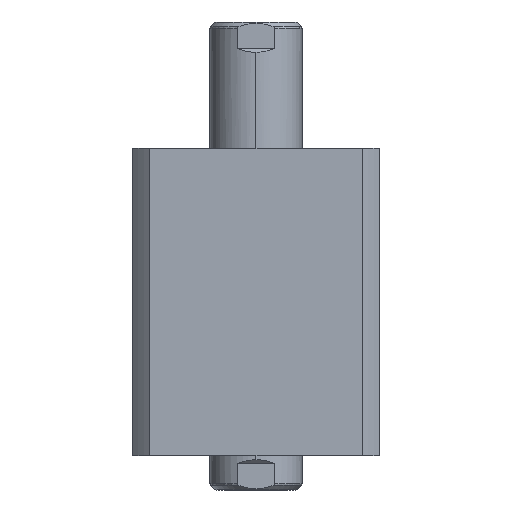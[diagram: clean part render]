
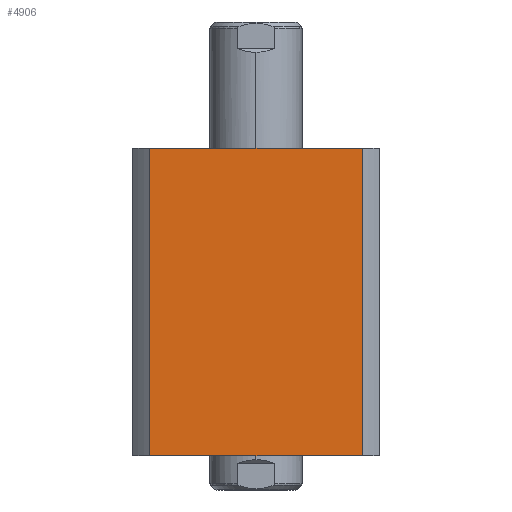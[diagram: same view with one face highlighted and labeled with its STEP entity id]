
A CAD part, left-side view. The second image highlights one B-rep face of the part: STEP entity #4906.
In plain terms, the highlighted planar face has unit normal (-1, 0, 0).
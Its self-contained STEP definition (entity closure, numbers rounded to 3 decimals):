
#199 = CARTESIAN_POINT ( 'NONE',  ( -47., -40.435, 0. ) ) ;
#310 = VERTEX_POINT ( 'NONE', #7878 ) ;
#625 = AXIS2_PLACEMENT_3D ( 'NONE', #15335, #13899, #9656 ) ;
#1431 = EDGE_CURVE ( 'NONE', #310, #5982, #11146, .T. ) ;
#2441 = DIRECTION ( 'NONE',  ( 0., -1., 0. ) ) ;
#2472 = DIRECTION ( 'NONE',  ( 0., -1., 0. ) ) ;
#2934 = LINE ( 'NONE', #13776, #17192 ) ;
#3960 = EDGE_CURVE ( 'NONE', #14736, #310, #17377, .T. ) ;
#4669 = VECTOR ( 'NONE', #13337, 1000. ) ;
#4906 = ADVANCED_FACE ( 'NONE', ( #12909 ), #8219, .F. ) ;
#5481 = CARTESIAN_POINT ( 'NONE',  ( -47., 40.435, 0. ) ) ;
#5570 = CARTESIAN_POINT ( 'NONE',  ( -47., 47., 117. ) ) ;
#5982 = VERTEX_POINT ( 'NONE', #199 ) ;
#6016 = EDGE_CURVE ( 'NONE', #12166, #14736, #8887, .T. ) ;
#7355 = VECTOR ( 'NONE', #2472, 1000. ) ;
#7664 = CARTESIAN_POINT ( 'NONE',  ( -47., 40.435, 117. ) ) ;
#7810 = VECTOR ( 'NONE', #8605, 1000. ) ;
#7878 = CARTESIAN_POINT ( 'NONE',  ( -47., -40.435, 117. ) ) ;
#8219 = PLANE ( 'NONE',  #625 ) ;
#8485 = ORIENTED_EDGE ( 'NONE', *, *, #1431, .F. ) ;
#8605 = DIRECTION ( 'NONE',  ( 0., 0., -1. ) ) ;
#8887 = LINE ( 'NONE', #17324, #4669 ) ;
#8920 = ORIENTED_EDGE ( 'NONE', *, *, #6016, .F. ) ;
#9656 = DIRECTION ( 'NONE',  ( 0., 1., 0. ) ) ;
#11146 = LINE ( 'NONE', #11397, #7810 ) ;
#11380 = EDGE_CURVE ( 'NONE', #12166, #5982, #2934, .T. ) ;
#11397 = CARTESIAN_POINT ( 'NONE',  ( -47., -40.435, 300. ) ) ;
#12166 = VERTEX_POINT ( 'NONE', #5481 ) ;
#12266 = ORIENTED_EDGE ( 'NONE', *, *, #3960, .F. ) ;
#12725 = ORIENTED_EDGE ( 'NONE', *, *, #11380, .T. ) ;
#12909 = FACE_OUTER_BOUND ( 'NONE', #17095, .T. ) ;
#13337 = DIRECTION ( 'NONE',  ( 0., 0., 1. ) ) ;
#13776 = CARTESIAN_POINT ( 'NONE',  ( -47., 47., 0. ) ) ;
#13899 = DIRECTION ( 'NONE',  ( 1., 0., 0. ) ) ;
#14736 = VERTEX_POINT ( 'NONE', #7664 ) ;
#15335 = CARTESIAN_POINT ( 'NONE',  ( -47., 47., 117. ) ) ;
#17095 = EDGE_LOOP ( 'NONE', ( #8485, #12266, #8920, #12725 ) ) ;
#17192 = VECTOR ( 'NONE', #2441, 1000. ) ;
#17324 = CARTESIAN_POINT ( 'NONE',  ( -47., 40.435, 300. ) ) ;
#17377 = LINE ( 'NONE', #5570, #7355 ) ;
